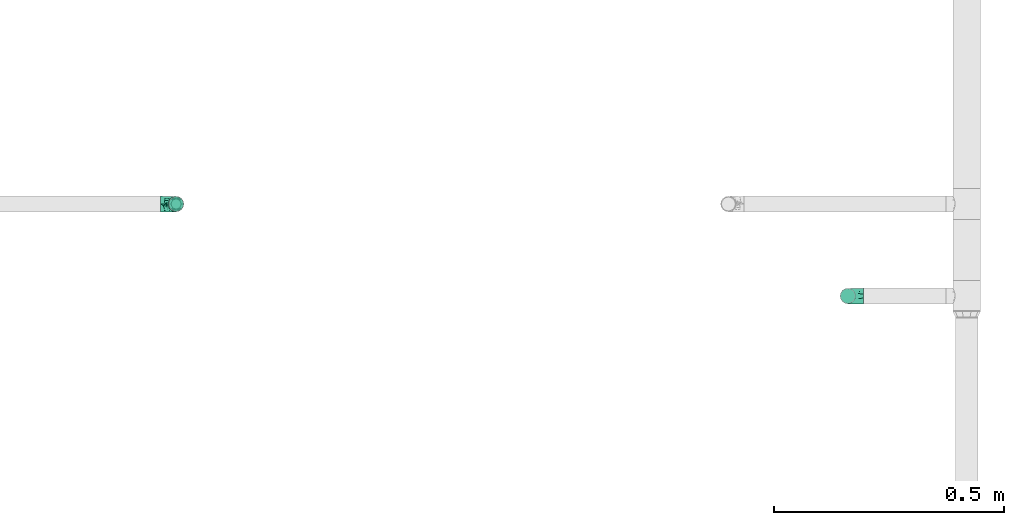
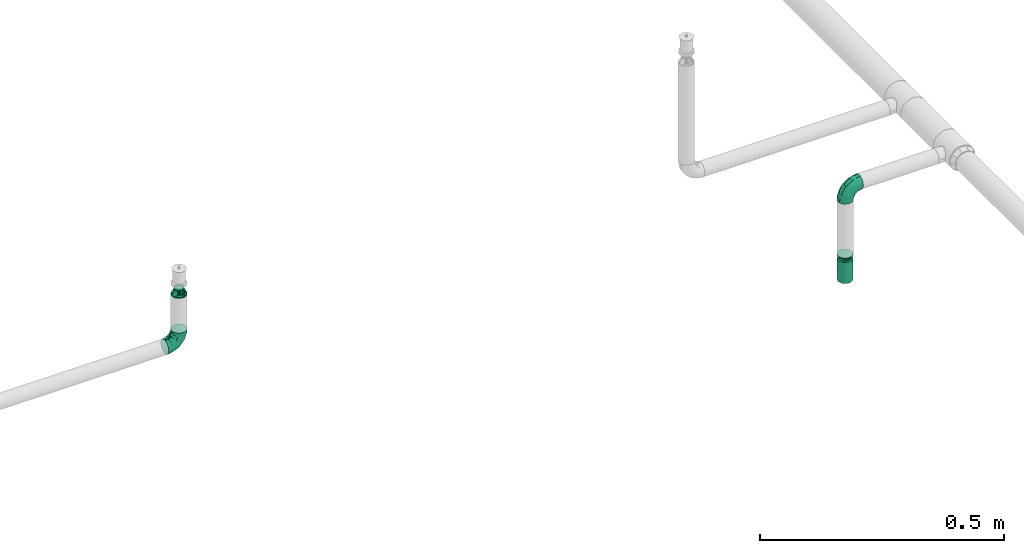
# One storey, part 93 of 157: 4 flow fittings, 1 flow terminal.
"""IFC2X3 building model written with IfcOpenShell, lengths in millimetres."""

from ifc_helpers import new_model, entity, si_unit, converted_unit, derived_unit, direction, frame, origin_with_axes, place, context, subcontext, project, spatial, open_shell, surface_model, source, transform, mapped, type_object, element, save


model = new_model("IFC2X3")

# Units and contexts
model_context = context("Model", 3, precision=0.01, world=frame((0.0, 4.29681676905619e-09, 0.0)), true_north=direction((4.01073788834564e-13, 1.0)))
plan_context = context("Plan", 3, precision=0.01, world=frame((0.0, 4.29681676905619e-09, 0.0)), true_north=direction((4.01073788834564e-13, 1.0)))
body_context = subcontext(model_context, "Body", "Model", "MODEL_VIEW")
ifc_project = project(units=[converted_unit("PLANEANGLEUNIT", "DEGREE", entity("IfcPositiveLengthMeasure", 0.0174532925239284), si_unit("PLANEANGLEUNIT", "RADIAN"), dimensions=[0, 0, 0, 0, 0, 0, 0]), si_unit("AREAUNIT", "SQUARE_METRE"), si_unit("LENGTHUNIT", "METRE", prefix="MILLI"), si_unit("MASSUNIT", "GRAM", prefix="KILO"), si_unit("POWERUNIT", "WATT"), si_unit("PRESSUREUNIT", "PASCAL"), si_unit("FORCEUNIT", "NEWTON", prefix="KILO"), si_unit("ELECTRICCURRENTUNIT", "AMPERE"), si_unit("THERMODYNAMICTEMPERATUREUNIT", "DEGREE_CELSIUS"), si_unit("TIMEUNIT", "SECOND"), si_unit("VOLUMEUNIT", "CUBIC_METRE"), derived_unit("LINEARVELOCITYUNIT", [(si_unit("LENGTHUNIT", "METRE"), 1), (si_unit("TIMEUNIT", "SECOND"), -1)]), derived_unit("VOLUMETRICFLOWRATEUNIT", [(si_unit("VOLUMEUNIT", "CUBIC_METRE"), 1), (si_unit("TIMEUNIT", "SECOND"), -1)]), derived_unit("THERMALTRANSMITTANCEUNIT", [(si_unit("POWERUNIT", "WATT"), 1), (si_unit("THERMODYNAMICTEMPERATUREUNIT", "KELVIN"), -1), (si_unit("AREAUNIT", "SQUARE_METRE"), -1)])], contexts=[model_context, plan_context])

# Site, building, storey
site_placement = place(None, frame((0.0, -4.29681676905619e-09, 0.0), z_axis=(0.0, 0.0, 1.0), x_axis=(1.0, 0.0, 0.0)))
site = spatial("IfcSite", under=ifc_project, at=site_placement, CompositionType="ELEMENT")
building_placement = place(site_placement, frame((0.0, 4.29681676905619e-09, 0.0), z_axis=(0.0, 0.0, 1.0), x_axis=(1.0, 0.0, 0.0)))
building = spatial("IfcBuilding", under=site, at=building_placement, Name="mc-building", CompositionType="ELEMENT")
storey_placement = place(building_placement, frame((0.0, 0.0, 204000.0), z_axis=(0.0, 0.0, 1.0), x_axis=(1.0, 0.0, 0.0)))
storey = spatial("IfcBuildingStorey", under=building, at=storey_placement, Name="Nivå D", CompositionType="ELEMENT", Elevation=204000.0)

# Flow fittings
pipe_fitting_type_1 = type_object("IfcPipeFittingType", Name="magi_pipe_fe_elbow_short_001", PredefinedType="BEND")
shared_shape_1 = source(origin_with_axes(), body_context, "Body", "SurfaceModel", [
    surface_model("IfcShellBasedSurfaceModel", [(-33.8, 8.45, -14.63583), (-33.8, 4.37404, -16.32415), (-33.8, 11.9501, -11.9501), (-33.8, -11.9501, -11.9501), (-33.8, -14.63583, -8.45), (-33.8, -8.45, -14.63583), (-33.8, 0.0, -16.9), (-33.8, -4.37404, -16.32415), (-33.8, -4.37404, 16.32415), (-33.8, 0.0, 16.9), (-33.8, -8.45, 14.63583), (-33.8, 16.32415, -4.37404), (-33.8, 14.63583, -8.45), (-33.8, -16.32415, -4.37404), (-33.8, -16.9, 0.0), (-33.8, -16.32415, 4.37404), (-33.8, 11.9501, 11.9501), (-33.8, 14.63583, 8.45), (-33.8, 16.32415, 4.37404), (-33.8, 4.37404, 16.32415), (-33.8, 8.45, 14.63583), (-33.8, -14.63583, 8.45), (-33.8, -11.9501, 11.9501), (-33.8, 16.9, 0.0), (-11.9501, 33.8, -11.9501), (0.0, 33.8, -16.9), (-4.37404, 33.8, -16.32415), (-8.45, 33.8, -14.63583), (-14.63583, 33.8, -8.45), (-16.32415, 33.8, -4.37404), (14.63583, 33.8, -8.45), (8.45, 33.8, 14.63583), (16.32415, 33.8, -4.37404), (8.45, 33.8, -14.63583), (11.9501, 33.8, -11.9501), (4.37404, 33.8, -16.32415), (16.32415, 33.8, 4.37404), (16.9, 33.8, 0.0), (-11.9501, 33.8, 11.9501), (-16.32415, 33.8, 4.37404), (-14.63583, 33.8, 8.45), (-8.45, 33.8, 14.63583), (-4.37404, 33.8, 16.32415), (11.9501, 33.8, 11.9501), (14.63583, 33.8, 8.45), (0.0, 33.8, 16.9), (4.37404, 33.8, 16.32415), (-16.9, 33.8, 0.0), (-24.79389, -13.12945, 9.48721), (-22.19287, -9.75018, 12.59315), (-24.09897, -14.97035, 0.0), (-14.93934, -10.76256, 8.5297), (-22.46095, -14.75051, 5.27077), (14.75051, 22.46094, 5.27077), (11.9251, 13.23888, 4.33236), (13.04069, 14.39795, 0.0), (7.71387, 13.68847, 11.55891), (9.75018, 22.19287, 12.59315), (4.10169, 13.0571, 14.04018), (-24.84007, -6.39063, 15.2048), (-25.81779, -2.23879, 16.61097), (-23.66549, 2.59054, 16.87119), (-26.50418, 14.06512, 11.08152), (-24.21253, 17.66365, 7.72657), (-29.58514, 15.86957, 7.00283), (-6.17382, -7.5455, 0.0), (-13.23888, -11.9251, 4.33236), (-14.39795, -13.04069, 0.0), (-17.81434, 18.87373, 11.97104), (-6.30846, 29.15138, 15.82987), (-2.31622, 25.28002, 16.85849), (-29.23923, 10.23435, 13.77053), (-1.45439, -2.85688, 7.61475), (-0.28326, 0.34872, 10.09509), (-5.74484, -4.04709, 10.4122), (-4.41137, 11.31918, 16.59407), (-8.39727, 3.10034, 15.7812), (-1.72649, 9.1306, 15.53089), (-17.39909, 24.75344, 7.64977), (-26.19233, 20.0512, 0.0), (-28.14518, 17.29657, 4.25857), (-26.05147, 6.6281, 15.96447), (-5.87354, 16.61944, 16.86968), (-12.51807, 12.51807, 16.48937), (-10.06312, 7.38516, 16.81295), (-3.01882, 3.01882, 13.81718), (-13.0571, -4.10169, 14.04018), (-16.82553, -0.15166, 16.38038), (10.76256, 14.93934, 8.5297), (13.12945, 24.79389, 9.48721), (6.39063, 24.84007, 15.2048), (2.23879, 25.81779, 16.61097), (-13.68847, -7.71387, 11.55891), (14.97035, 24.09897, 0.0), (-7.30894, 22.89991, 16.09489), (-10.67958, 26.17414, 14.008), (-12.78295, 18.26924, 15.06066), (-13.88562, 22.45231, 12.93244), (-18.04944, 15.16501, 14.04434), (-23.11658, 20.08178, 4.02986), (-21.84989, 21.84989, 0.0), (-18.55817, 25.48277, 3.93065), (-13.95142, 26.94732, 11.03289), (-18.57098, 7.23906, 16.59756), (-16.58335, 4.14122, 16.89279), (-17.96666, 11.46709, 15.63151), (-9.84453, 17.54304, 16.18938), (0.15166, 16.82553, 16.38038), (-23.27207, 11.47201, 14.23154), (3.84842, 5.86994, 10.70473), (-8.0212, -7.54413, 7.93275), (1.00345, -2.19508, 4.57414), (5.13203, 3.01004, 5.90201), (5.24161, 1.7543, 2.53265), (8.70457, 7.04947, 3.99182), (-20.0512, 26.19233, 0.0), (8.4852, 8.76699, 7.09296), (-4.55488, -6.72064, 4.90681), (2.05031, -2.05031, 0.0), (7.5455, 6.17382, 0.0), (-26.75399, 2.1369, -16.845), (-14.61995, 24.73803, -11.27736), (-28.45274, -13.45335, -9.81895), (-26.00469, 6.63555, -15.96645), (-23.06726, 20.04573, -4.26202), (-13.80647, -4.26506, -14.17873), (-14.67501, -0.21081, -16.07388), (-6.7902, -0.2828, -13.8478), (-24.53586, 11.08096, -14.13417), (-26.72048, 14.00837, -11.05776), (10.0967, 24.44989, -12.75976), (5.83237, 21.40218, -15.03047), (6.66249, 28.54238, -15.38093), (-20.38182, 15.48705, -12.74596), (12.53268, 21.23441, -9.15363), (12.54494, 15.67504, -5.54878), (9.7522, 12.89279, -8.66343), (-15.65186, 19.64213, -13.01327), (-12.03528, 20.66498, -14.67665), (-15.61907, 15.61906, -14.83879), (-25.56551, -15.26206, 0.0), (-24.65452, -15.12934, -5.50955), (13.45335, 28.45274, -9.81895), (15.12934, 24.65452, -5.50955), (-7.35442, -8.31014, -5.65563), (-15.67504, -12.54494, -5.54878), (-24.44989, -10.0967, -12.75976), (0.16522, 0.41303, -9.71728), (-5.70658, -5.33066, -8.89288), (-5.13869, -2.37198, -11.53565), (-21.23441, -12.53268, -9.15363), (0.71146, 7.93863, -14.09382), (0.21081, 14.67501, -16.07388), (3.49291, 14.42772, -14.76381), (-24.89911, -2.13088, -16.591), (-28.54238, -6.66249, -15.38093), (-18.44386, -7.71663, -13.26957), (2.13088, 24.89911, -16.591), (-28.64342, 17.44413, -2.89318), (1.70017, -1.28722, -5.09504), (-16.57067, 26.81947, -7.36596), (-17.69055, 27.4263, -3.76405), (-12.89279, -9.7522, -8.66343), (-5.96611, 5.96611, -15.95814), (-20.53709, 20.09345, -8.28985), (-2.1369, 26.75399, -16.845), (-6.89872, 24.58781, -16.02578), (-10.60739, 26.53157, -13.98044), (-21.40218, -5.83237, -15.03047), (2.93192, 5.89627, -11.55917), (6.89393, 12.61842, -11.82233), (5.58056, 5.95325, -8.79455), (-3.99512, 18.61798, -16.89635), (8.31014, 7.35442, -5.65563), (-9.1383, 9.86148, -16.89041), (-9.99983, 16.02119, -16.39699), (-16.68576, 9.78031, -16.34199), (-27.01915, 16.61158, -7.12979), (15.26206, 25.56551, 0.0), (-18.61798, 3.99512, -16.89635), (-19.37495, 27.82495, 0.0), (-12.61842, -6.89393, -11.82233), (-18.84705, 19.14018, -10.96545)], [open_shell([[[0, 1, 2]], [[3, 4, 5]], [[6, 7, 5]], [[8, 9, 10]], [[1, 6, 2]], [[11, 12, 2]], [[4, 2, 6]], [[2, 13, 10]], [[5, 4, 6]], [[2, 4, 13]], [[14, 15, 13]], [[11, 2, 16]], [[11, 17, 18]], [[11, 16, 17]], [[19, 20, 16]], [[16, 2, 10]], [[19, 16, 10]], [[21, 22, 15]], [[22, 13, 15]], [[22, 10, 13]], [[10, 9, 19]], [[11, 18, 23]], [[24, 25, 26]], [[24, 26, 27]], [[24, 28, 29]], [[25, 24, 30]], [[31, 32, 24]], [[33, 30, 34]], [[33, 35, 25]], [[25, 30, 33]], [[32, 30, 24]], [[32, 36, 37]], [[38, 24, 29]], [[39, 40, 29]], [[40, 38, 29]], [[38, 41, 42]], [[38, 31, 24]], [[31, 38, 42]], [[36, 43, 44]], [[36, 32, 43]], [[31, 45, 46]], [[32, 31, 43]], [[42, 45, 31]], [[39, 29, 47]], [[22, 48, 49]], [[15, 14, 50]], [[51, 48, 52]], [[53, 54, 55]], [[48, 22, 21]], [[15, 52, 21]], [[56, 57, 58]], [[49, 10, 22]], [[49, 59, 10]], [[9, 60, 61]], [[62, 63, 64]], [[65, 66, 67]], [[57, 43, 31]], [[62, 68, 63]], [[42, 69, 70]], [[20, 71, 16]], [[8, 60, 9]], [[72, 73, 74]], [[75, 76, 77]], [[16, 62, 17]], [[40, 39, 78]], [[79, 23, 80]], [[64, 18, 17]], [[9, 61, 19]], [[19, 81, 20]], [[82, 83, 84]], [[74, 85, 86]], [[59, 86, 87]], [[88, 89, 57]], [[90, 31, 46]], [[44, 53, 36]], [[46, 45, 91]], [[54, 53, 88]], [[44, 89, 53]], [[92, 86, 49]], [[89, 44, 43]], [[10, 59, 8]], [[53, 55, 93]], [[93, 36, 53]], [[66, 52, 67]], [[94, 82, 70]], [[95, 96, 94]], [[97, 98, 96]], [[79, 99, 100]], [[41, 38, 95]], [[101, 100, 99]], [[68, 78, 63]], [[42, 41, 69]], [[23, 18, 80]], [[95, 94, 69]], [[78, 101, 99]], [[38, 102, 95]], [[70, 45, 42]], [[97, 95, 102]], [[15, 50, 52]], [[90, 57, 31]], [[57, 90, 58]], [[81, 19, 61]], [[103, 104, 84]], [[105, 81, 103]], [[38, 40, 102]], [[106, 96, 83]], [[94, 106, 82]], [[91, 70, 107]], [[71, 62, 16]], [[62, 108, 98]], [[86, 59, 49]], [[67, 52, 50]], [[60, 59, 87]], [[92, 49, 51]], [[86, 85, 76]], [[91, 90, 46]], [[37, 36, 93]], [[107, 77, 58]], [[107, 58, 90]], [[58, 85, 109]], [[110, 74, 92]], [[72, 74, 110]], [[66, 51, 52]], [[72, 111, 112]], [[113, 114, 112]], [[56, 88, 57]], [[52, 48, 21]], [[49, 48, 51]], [[57, 89, 43]], [[53, 89, 88]], [[103, 81, 61]], [[71, 81, 108]], [[18, 64, 80]], [[63, 78, 99]], [[47, 115, 101]], [[101, 115, 100]], [[40, 78, 102]], [[68, 102, 78]], [[97, 96, 95]], [[105, 98, 108]], [[103, 84, 83]], [[107, 70, 82]], [[76, 84, 87]], [[82, 84, 75]], [[70, 91, 45]], [[90, 91, 107]], [[59, 60, 8]], [[61, 60, 87]], [[73, 85, 74]], [[109, 112, 116]], [[103, 61, 104]], [[105, 103, 83]], [[96, 105, 83]], [[81, 105, 108]], [[96, 98, 105]], [[62, 98, 68]], [[61, 87, 104]], [[87, 84, 104]], [[86, 76, 87]], [[77, 76, 85]], [[58, 77, 85]], [[75, 77, 107]], [[82, 75, 107]], [[76, 75, 84]], [[81, 71, 20]], [[62, 71, 108]], [[95, 69, 41]], [[70, 69, 94]], [[62, 64, 17]], [[80, 63, 99]], [[63, 80, 64]], [[80, 99, 79]], [[66, 65, 117]], [[110, 66, 117]], [[112, 114, 116]], [[118, 117, 65]], [[110, 92, 51]], [[112, 111, 113]], [[119, 55, 54]], [[74, 86, 92]], [[58, 109, 56]], [[116, 56, 109]], [[66, 110, 51]], [[72, 110, 117]], [[111, 72, 117]], [[73, 112, 109]], [[117, 118, 111]], [[113, 111, 118]], [[118, 119, 113]], [[114, 119, 54]], [[119, 114, 113]], [[116, 54, 88]], [[54, 116, 114]], [[116, 88, 56]], [[112, 73, 72]], [[85, 73, 109]], [[78, 39, 101]], [[47, 101, 39]], [[102, 68, 97]], [[97, 68, 98]], [[82, 106, 83]], [[94, 96, 106]], [[1, 120, 6]], [[28, 24, 121]], [[3, 122, 4]], [[0, 123, 1]], [[100, 124, 79]], [[125, 126, 127]], [[128, 2, 129]], [[130, 131, 132]], [[128, 129, 133]], [[134, 135, 136]], [[137, 138, 139]], [[128, 0, 2]], [[67, 140, 141]], [[134, 142, 143]], [[141, 13, 4]], [[144, 65, 145]], [[146, 3, 5]], [[147, 148, 149]], [[145, 141, 150]], [[151, 152, 153]], [[154, 7, 6]], [[5, 155, 146]], [[150, 146, 156]], [[155, 5, 7]], [[143, 135, 134]], [[35, 157, 25]], [[23, 79, 158]], [[148, 159, 144]], [[160, 161, 29]], [[145, 162, 144]], [[163, 152, 151]], [[29, 28, 160]], [[121, 164, 160]], [[33, 34, 130]], [[25, 165, 26]], [[26, 165, 166]], [[142, 34, 30]], [[24, 27, 167]], [[124, 161, 164]], [[157, 35, 132]], [[155, 154, 168]], [[123, 0, 128]], [[169, 170, 171]], [[172, 157, 152]], [[26, 166, 27]], [[132, 35, 33]], [[142, 130, 34]], [[168, 154, 126]], [[136, 135, 173]], [[133, 137, 139]], [[2, 12, 129]], [[170, 131, 130]], [[30, 32, 143]], [[172, 174, 175]], [[176, 123, 128]], [[158, 177, 11]], [[135, 55, 119]], [[167, 27, 166]], [[175, 166, 172]], [[137, 167, 138]], [[122, 141, 4]], [[140, 14, 13]], [[32, 37, 178]], [[170, 130, 134]], [[152, 157, 131]], [[165, 157, 172]], [[153, 170, 151]], [[152, 163, 174]], [[168, 125, 156]], [[122, 146, 150]], [[120, 154, 6]], [[179, 174, 126]], [[179, 126, 154]], [[126, 163, 127]], [[162, 145, 150]], [[140, 13, 141]], [[32, 178, 143]], [[55, 143, 178]], [[177, 129, 12]], [[128, 133, 139]], [[176, 128, 139]], [[120, 123, 179]], [[121, 160, 28]], [[161, 100, 180]], [[166, 175, 138]], [[121, 24, 167]], [[161, 47, 29]], [[79, 124, 158]], [[124, 164, 177]], [[161, 124, 100]], [[136, 171, 170]], [[127, 163, 151]], [[147, 171, 159]], [[148, 144, 162]], [[127, 151, 169]], [[127, 181, 125]], [[129, 177, 164]], [[12, 11, 177]], [[159, 65, 144]], [[67, 141, 145]], [[143, 55, 135]], [[135, 119, 173]], [[123, 120, 1]], [[154, 120, 179]], [[157, 165, 25]], [[166, 165, 172]], [[172, 152, 174]], [[176, 139, 175]], [[126, 174, 163]], [[176, 174, 179]], [[174, 176, 175]], [[123, 176, 179]], [[150, 181, 162]], [[127, 149, 181]], [[181, 148, 162]], [[159, 148, 147]], [[171, 136, 173]], [[170, 134, 136]], [[159, 171, 173]], [[171, 147, 169]], [[169, 147, 149]], [[151, 170, 169]], [[164, 182, 129]], [[182, 121, 137]], [[181, 149, 148]], [[169, 149, 127]], [[182, 137, 133]], [[167, 137, 121]], [[166, 138, 167]], [[175, 139, 138]], [[129, 182, 133]], [[121, 182, 164]], [[161, 160, 164]], [[47, 161, 180]], [[177, 158, 124]], [[23, 158, 11]], [[130, 132, 33]], [[157, 132, 131]], [[143, 142, 30]], [[130, 142, 134]], [[154, 155, 7]], [[146, 155, 168]], [[146, 122, 3]], [[141, 122, 150]], [[152, 131, 153]], [[159, 119, 118]], [[67, 145, 65]], [[170, 153, 131]], [[119, 159, 173]], [[159, 118, 65]], [[156, 125, 181]], [[126, 125, 168]], [[150, 156, 181]], [[168, 156, 146]]])]),
])
for number, where, z_axis, x_axis, name in (
    (1, (526039.775, 410800.0, 2880.0), (0.0, 1.0, 0.0), (0.0, 0.0, -1.0), "magi_pipe_fe_elbow_short_001"),
    (2, (527500.0, 410600.0, 2880.0), (0.0, 1.0, 0.0), (0.0, 0.0, 1.0), "magi_pipe_fe_elbow_short_001"),
):
    element("IfcFlowFitting", number, at=place(storey_placement, frame(where, z_axis=z_axis, x_axis=x_axis)), inside=storey, type_object=pipe_fitting_type_1, Name=name, context=body_context, shape_type="MappedRepresentation", body=[
        mapped(shared_shape_1, transform((0.0, 0.0, 0.0), scale=1.0)),
    ])
pipe_fitting_type_2 = type_object("IfcPipeFittingType", Name="magi_pipe_fe_reducer_centric_short_NOR", PredefinedType="TRANSITION")
shared_shape_2 = source(origin_with_axes(), body_context, "Body", "SurfaceModel", [
    surface_model("IfcShellBasedSurfaceModel", [(-2.0, -7.56604, -7.56604), (-2.0, -10.33541, -2.76936), (-2.0, -5.35, -9.26647), (-2.0, 5.35, -9.26647), (-2.0, 10.33541, -2.76936), (-2.0, 7.56604, -7.56604), (12.4, 11.9501, 11.9501), (12.4, 0.0, 16.9), (12.4, 11.9501, -11.9501), (12.4, 16.9, 0.0), (0.0, -10.7, 0.0), (0.0, -5.35, 9.26647), (0.0, -5.35, -9.26647), (0.0, 10.7, 0.0), (12.4, 15.66253, -2.98753), (12.4, 8.96258, -13.18758), (0.0, 6.6875, -6.94985), (12.4, -15.66253, -2.98753), (12.4, -16.9, 0.0), (12.4, 5.97505, -14.42505), (0.0, 5.35, -9.26647), (12.4, 14.42505, -5.97505), (0.0, 8.025, -4.63324), (0.0, 9.3625, -2.31662), (0.0, -9.3625, -2.31662), (0.0, -8.025, -4.63324), (12.4, -14.42505, -5.97505), (12.4, 13.18758, -8.96258), (12.4, -13.18758, -8.96258), (12.4, -11.9501, -11.9501), (0.0, -6.6875, -6.94985), (12.4, -8.96258, -13.18758), (12.4, -5.97505, -14.42505), (12.4, -15.66253, 2.98753), (12.4, -8.96258, 13.18758), (0.0, -6.6875, 6.94985), (12.4, -11.9501, 11.9501), (12.4, 15.66253, 2.98753), (12.4, -5.97505, 14.42505), (12.4, -14.42505, 5.97505), (0.0, -8.025, 4.63324), (0.0, -9.3625, 2.31662), (0.0, 9.3625, 2.31662), (0.0, 8.025, 4.63324), (12.4, 14.42505, 5.97505), (12.4, -13.18758, 8.96258), (12.4, 13.18758, 8.96258), (0.0, 6.6875, 6.94985), (12.4, 8.96258, 13.18758), (0.0, 5.35, 9.26647), (12.4, 5.97505, 14.42505), (14.4, 4.37404, -16.32415), (14.4, 8.45, -14.63583), (14.4, 11.9501, -11.9501), (14.4, -8.45, -14.63583), (14.4, 16.32415, -4.37404), (14.4, 16.32415, 4.37404), (14.4, 14.63583, -8.45), (14.4, 0.0, -16.9), (14.4, -4.37404, -16.32415), (14.4, -11.9501, -11.9501), (14.4, -16.32415, -4.37404), (14.4, -14.63583, -8.45), (14.4, -16.32415, 4.37404), (14.4, 16.9, 0.0), (14.4, 14.63583, 8.45), (14.4, 11.9501, 11.9501), (14.4, 4.37404, 16.32415), (14.4, 8.45, 14.63583), (14.4, 0.0, 16.9), (14.4, -14.63583, 8.45), (14.4, -16.9, 0.0), (14.4, -8.45, 14.63583), (14.4, -11.9501, 11.9501), (14.4, -4.37404, 16.32415), (12.4, 4.37404, 16.32415), (12.4, -14.63583, 8.45), (12.4, 16.32415, 4.37404), (12.4, 8.45, 14.63583), (12.4, 14.63583, 8.45), (12.4, -8.45, 14.63583), (12.4, -4.37404, 16.32415), (12.4, -16.32415, 4.37404), (12.4, -16.32415, -4.37404), (12.4, -8.45, -14.63583), (12.4, 16.32415, -4.37404), (12.4, 14.63583, -8.45), (12.4, 8.45, -14.63583), (12.4, 4.37404, -16.32415), (12.4, 0.0, -16.9), (12.4, -14.63583, -8.45), (12.4, -4.37404, -16.32415), (-2.0, 2.76936, 10.33541), (-2.0, 0.0, 10.7), (-2.0, 5.35, 9.26647), (-2.0, 7.56604, 7.56604), (-2.0, 9.26647, 5.35), (-2.0, 10.33541, 2.76936), (-2.0, -10.33541, 2.76936), (-2.0, -2.76936, 10.33541), (-2.0, -7.56604, 7.56604), (-2.0, -5.35, 9.26647), (-2.0, -9.26647, 5.35), (-2.0, -10.7, 0.0), (-2.0, 9.26647, -5.35), (-2.0, 2.76936, -10.33541), (-2.0, -9.26647, -5.35), (-2.0, 0.0, -10.7), (-2.0, -2.76936, -10.33541), (-2.0, 10.7, 0.0), (0.0, 0.0, -10.7), (0.0, 2.76936, -10.33541), (0.0, 10.33541, -2.76936), (0.0, 7.56604, -7.56604), (0.0, -10.33541, -2.76936), (0.0, 9.26647, -5.35), (0.0, 0.0, 10.7), (0.0, -2.76936, -10.33541), (0.0, -7.56604, -7.56604), (0.0, -9.26647, -5.35), (0.0, 10.33541, 2.76936), (0.0, 9.26647, 5.35), (0.0, 7.56604, 7.56604), (0.0, 2.76936, 10.33541), (0.0, -7.56604, 7.56604), (0.0, -10.33541, 2.76936), (0.0, -9.26647, 5.35), (0.0, -2.76936, 10.33541), (0.0, 2.675, -9.26647), (0.0, -2.675, -9.26647), (12.4, 2.98753, -15.66253), (0.0, 0.0, -9.26647), (12.4, -2.98753, -15.66253), (0.0, -2.675, 9.26647), (0.0, 2.675, 9.26647), (12.4, -2.98753, 15.66253), (0.0, 0.0, 9.26647), (12.4, 2.98753, 15.66253)], [open_shell([[[0, 1, 2]], [[3, 4, 5]], [[6, 7, 8]], [[8, 9, 6]], [[10, 11, 12]], [[13, 9, 14]], [[15, 16, 8]], [[17, 18, 10]], [[15, 19, 20]], [[21, 22, 23]], [[24, 25, 26]], [[22, 21, 27]], [[28, 26, 25]], [[29, 30, 31]], [[12, 32, 31]], [[10, 18, 33]], [[34, 35, 36]], [[37, 9, 13]], [[34, 38, 11]], [[39, 40, 41]], [[42, 43, 44]], [[40, 39, 45]], [[46, 44, 43]], [[6, 47, 48]], [[49, 50, 48]], [[51, 52, 53]], [[54, 51, 53]], [[53, 55, 56]], [[55, 53, 57]], [[53, 56, 54]], [[58, 54, 59]], [[58, 51, 54]], [[60, 61, 62]], [[61, 60, 54]], [[54, 63, 61]], [[56, 55, 64]], [[56, 65, 66]], [[56, 66, 67]], [[67, 63, 54]], [[67, 66, 68]], [[63, 67, 69]], [[69, 70, 63]], [[71, 61, 63]], [[70, 72, 73]], [[70, 69, 72]], [[72, 69, 74]], [[54, 56, 67]], [[75, 76, 7]], [[77, 75, 78]], [[6, 79, 77]], [[6, 77, 78]], [[76, 75, 77]], [[80, 76, 36]], [[80, 81, 7]], [[7, 76, 80]], [[82, 76, 77]], [[82, 83, 18]], [[82, 77, 84]], [[77, 85, 8]], [[8, 85, 86]], [[8, 87, 88]], [[84, 77, 8]], [[88, 89, 8]], [[83, 29, 90]], [[29, 83, 84]], [[84, 89, 91]], [[83, 82, 84]], [[8, 89, 84]], [[85, 77, 9]], [[83, 61, 18]], [[90, 62, 83]], [[54, 29, 84]], [[90, 29, 60]], [[59, 84, 91]], [[83, 62, 61]], [[61, 71, 18]], [[59, 54, 84]], [[60, 29, 54]], [[60, 62, 90]], [[58, 59, 91]], [[91, 89, 58]], [[88, 51, 89]], [[87, 52, 88]], [[57, 8, 86]], [[87, 8, 53]], [[55, 86, 85]], [[87, 53, 52]], [[52, 51, 88]], [[64, 55, 85]], [[57, 86, 55]], [[57, 53, 8]], [[9, 64, 85]], [[89, 51, 58]], [[77, 56, 9]], [[79, 65, 77]], [[68, 6, 78]], [[79, 6, 66]], [[67, 78, 75]], [[77, 65, 56]], [[56, 64, 9]], [[67, 68, 78]], [[66, 6, 68]], [[66, 65, 79]], [[69, 67, 75]], [[75, 7, 69]], [[81, 74, 7]], [[80, 72, 81]], [[70, 36, 76]], [[80, 36, 73]], [[63, 76, 82]], [[80, 73, 72]], [[72, 74, 81]], [[71, 63, 82]], [[70, 76, 63]], [[70, 73, 36]], [[18, 71, 82]], [[7, 74, 69]], [[92, 1, 93]], [[94, 1, 92]], [[95, 96, 97]], [[95, 97, 94]], [[98, 93, 1]], [[99, 100, 101]], [[99, 93, 100]], [[100, 98, 102]], [[93, 98, 100]], [[98, 1, 103]], [[94, 97, 1]], [[1, 97, 4]], [[5, 4, 104]], [[4, 3, 1]], [[105, 1, 3]], [[1, 0, 106]], [[2, 107, 108]], [[2, 1, 105]], [[105, 107, 2]], [[4, 97, 109]], [[20, 110, 111]], [[112, 20, 113]], [[114, 20, 112]], [[112, 113, 115]], [[116, 114, 112]], [[110, 12, 117]], [[110, 20, 12]], [[118, 114, 119]], [[114, 118, 12]], [[20, 114, 12]], [[112, 13, 120]], [[120, 121, 122]], [[120, 122, 123]], [[116, 112, 123]], [[123, 122, 49]], [[116, 124, 114]], [[125, 124, 126]], [[10, 114, 125]], [[124, 127, 11]], [[125, 114, 124]], [[127, 124, 116]], [[123, 112, 120]], [[1, 114, 103]], [[106, 119, 1]], [[12, 0, 2]], [[106, 0, 118]], [[117, 2, 108]], [[1, 119, 114]], [[114, 10, 103]], [[117, 12, 2]], [[118, 0, 12]], [[118, 119, 106]], [[110, 117, 108]], [[108, 107, 110]], [[105, 111, 107]], [[3, 20, 105]], [[115, 5, 104]], [[3, 5, 113]], [[112, 104, 4]], [[3, 113, 20]], [[20, 111, 105]], [[13, 112, 4]], [[115, 104, 112]], [[115, 113, 5]], [[109, 13, 4]], [[107, 111, 110]], [[97, 120, 109]], [[96, 121, 97]], [[49, 95, 94]], [[96, 95, 122]], [[123, 94, 92]], [[97, 121, 120]], [[120, 13, 109]], [[123, 49, 94]], [[122, 95, 49]], [[122, 121, 96]], [[116, 123, 92]], [[92, 93, 116]], [[99, 127, 93]], [[101, 11, 99]], [[126, 100, 102]], [[101, 100, 124]], [[125, 102, 98]], [[101, 124, 11]], [[11, 127, 99]], [[10, 125, 98]], [[126, 102, 125]], [[126, 124, 100]], [[103, 10, 98]], [[93, 127, 116]], [[18, 7, 36]], [[18, 29, 8]], [[89, 8, 29]], [[18, 8, 7]], [[13, 11, 49]], [[13, 20, 12]], [[13, 12, 11]], [[24, 26, 17]], [[10, 24, 17]], [[16, 15, 20]], [[30, 12, 31]], [[23, 14, 21]], [[19, 128, 20]], [[27, 8, 16]], [[32, 12, 129]], [[30, 28, 25]], [[130, 131, 128]], [[129, 132, 32]], [[16, 22, 27]], [[13, 14, 23]], [[128, 19, 130]], [[130, 89, 131]], [[131, 132, 129]], [[89, 132, 131]], [[28, 30, 29]], [[42, 44, 37]], [[13, 42, 37]], [[35, 34, 11]], [[47, 49, 48]], [[41, 33, 39]], [[38, 133, 11]], [[45, 36, 35]], [[50, 49, 134]], [[47, 46, 43]], [[135, 136, 133]], [[134, 137, 50]], [[35, 40, 45]], [[10, 33, 41]], [[133, 38, 135]], [[135, 7, 136]], [[136, 137, 134]], [[7, 137, 136]], [[46, 47, 6]]])]),
])
for number, where, z_axis, x_axis, name in (
    (3, (527500.0, 410600.0, 2696.95199999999), (0.0, -1.0, 0.0), (0.0, 0.0, 1.0), "magi_pipe_fe_reducer_centric_short_NOR"),
    (4, (526039.775, 410800.0, 3014.54800000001), (0.0, 1.0, 0.0), (0.0, 0.0, -1.0), "magi_pipe_fe_reducer_centric_short_NOR"),
):
    element("IfcFlowFitting", number, at=place(storey_placement, frame(where, z_axis=z_axis, x_axis=x_axis)), inside=storey, type_object=pipe_fitting_type_2, Name=name, context=body_context, shape_type="MappedRepresentation", body=[
        mapped(shared_shape_2, transform((0.0, 0.0, 0.0), scale=1.0)),
    ])

# Flow terminal
fire_suppression_terminal_type = type_object("IfcFireSuppressionTerminalType", Name="SP-15-K80-68DGR-STD-HIMLING", PredefinedType="NOTDEFINED")
shared_shape_3 = source(origin_with_axes(), body_context, "Body", "SurfaceModel", [
    surface_model("IfcShellBasedSurfaceModel", [(4.1411, -15.45481, 53.0), (8.0, -13.85641, 53.0), (11.31371, -11.31371, 53.0), (-8.0, -13.85641, 53.0), (15.45481, -4.1411, 53.0), (16.0, 0.0, 53.0), (13.85641, -8.0, 53.0), (0.0, -16.0, 53.0), (-4.1411, -15.45481, 53.0), (-13.85641, -8.0, 53.0), (-11.31371, -11.31371, 53.0), (-15.45481, -4.1411, 53.0), (15.45481, 4.1411, 53.0), (13.85641, 8.0, 53.0), (11.31371, 11.31371, 53.0), (-4.1411, 15.45481, 53.0), (8.0, 13.85641, 53.0), (4.1411, 15.45481, 53.0), (0.0, 16.0, 53.0), (-13.85641, 8.0, 53.0), (-15.45481, 4.1411, 53.0), (-16.0, 0.0, 53.0), (-11.31371, 11.31371, 53.0), (-8.0, 13.85641, 53.0), (0.0, 16.0, 0.0), (4.1411, 15.45481, 0.0), (8.0, 13.85641, 0.0), (-4.1411, 15.45481, 0.0), (11.31371, 11.31371, 0.0), (13.85641, 8.0, 0.0), (15.45481, 4.1411, 0.0), (-15.45481, -4.1411, 0.0), (-11.31371, 11.31371, 0.0), (-8.0, 13.85641, 0.0), (-13.85641, 8.0, 0.0), (-15.45481, 4.1411, 0.0), (-16.0, 0.0, 0.0), (4.1411, -15.45481, 0.0), (16.0, 0.0, 0.0), (15.45481, -4.1411, 0.0), (13.85641, -8.0, 0.0), (11.31371, -11.31371, 0.0), (8.0, -13.85641, 0.0), (-8.0, -13.85641, 0.0), (-13.85641, -8.0, 0.0), (-11.31371, -11.31371, 0.0), (0.0, -16.0, 0.0), (-4.1411, -15.45481, 0.0)], [open_shell([[[0, 1, 2]], [[3, 0, 2]], [[4, 5, 2]], [[4, 2, 6]], [[3, 2, 5]], [[7, 3, 8]], [[7, 0, 3]], [[3, 9, 10]], [[9, 3, 11]], [[5, 11, 3]], [[5, 12, 11]], [[12, 13, 14]], [[15, 12, 14]], [[16, 17, 18]], [[14, 16, 15]], [[18, 15, 16]], [[11, 19, 20]], [[21, 11, 20]], [[22, 15, 23]], [[15, 22, 19]], [[19, 11, 15]], [[11, 12, 15]], [[24, 25, 26]], [[27, 24, 26]], [[28, 29, 30]], [[27, 26, 28]], [[27, 28, 31]], [[27, 32, 33]], [[32, 27, 34]], [[34, 31, 35]], [[31, 34, 27]], [[35, 31, 36]], [[28, 30, 31]], [[37, 38, 39]], [[37, 39, 40]], [[41, 42, 37]], [[41, 37, 40]], [[38, 37, 43]], [[44, 43, 45]], [[43, 44, 31]], [[43, 46, 47]], [[43, 31, 38]], [[37, 46, 43]], [[38, 31, 30]], [[11, 31, 44]], [[45, 9, 44]], [[3, 43, 47]], [[45, 43, 10]], [[8, 47, 46]], [[31, 21, 36]], [[31, 11, 21]], [[44, 9, 11]], [[45, 10, 9]], [[3, 10, 43]], [[47, 8, 3]], [[46, 7, 8]], [[0, 37, 42]], [[41, 1, 42]], [[6, 40, 39]], [[41, 40, 2]], [[4, 39, 38]], [[37, 0, 7]], [[42, 1, 0]], [[41, 2, 1]], [[40, 6, 2]], [[4, 6, 39]], [[38, 5, 4]], [[37, 7, 46]], [[12, 38, 30]], [[13, 30, 29]], [[16, 26, 25]], [[17, 25, 24]], [[30, 13, 12]], [[12, 5, 38]], [[28, 14, 13]], [[28, 26, 14]], [[14, 26, 16]], [[25, 17, 16]], [[28, 13, 29]], [[24, 18, 17]], [[15, 27, 33]], [[32, 23, 33]], [[19, 34, 35]], [[32, 34, 22]], [[20, 35, 36]], [[27, 15, 18]], [[33, 23, 15]], [[32, 22, 23]], [[34, 19, 22]], [[20, 19, 35]], [[36, 21, 20]], [[27, 18, 24]]])]),
])
flow_terminal_placement = place(storey_placement, frame((527500.0, 410600.0, 2700.0), z_axis=(0.0, 0.0, -1.0), x_axis=(1.0, 0.0, 0.0)))
element("IfcFlowTerminal", 5, at=flow_terminal_placement, inside=storey, type_object=fire_suppression_terminal_type, Name="SP-15-K80-68DGR-STD-HIMLING", context=body_context, shape_type="MappedRepresentation", body=[
    mapped(shared_shape_3, transform((0.0, 0.0, 0.0), scale=1.0)),
])

save(model, "model.ifc")
